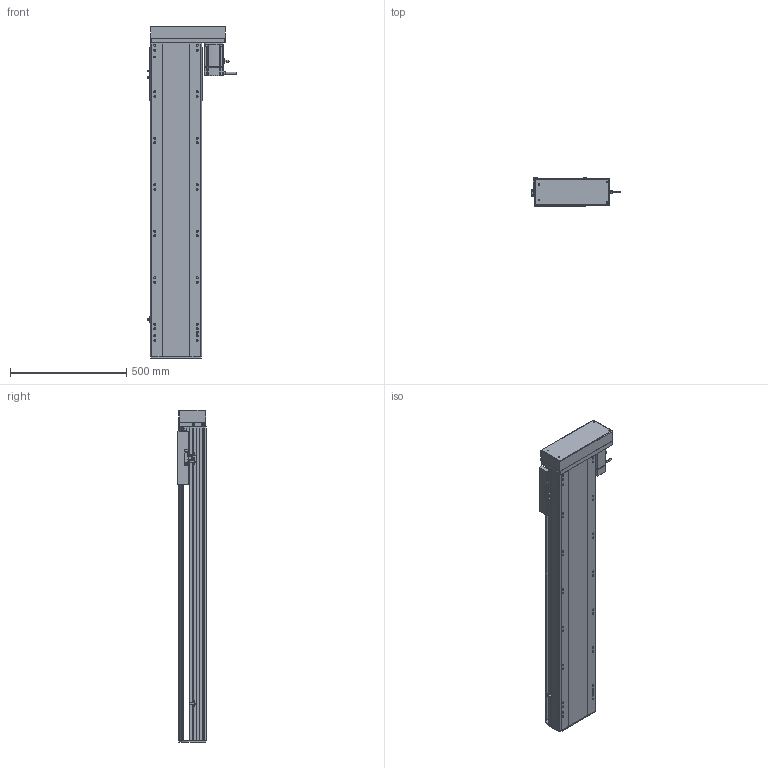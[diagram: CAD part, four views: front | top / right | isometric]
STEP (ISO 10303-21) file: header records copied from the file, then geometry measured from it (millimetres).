
FILE_DESCRIPTION (( 'STEP AP214' ), '1' );
FILE_NAME ('RTH22-XX-1050-L-M75-C4.STEP', '2025-10-24T11:00:41', ( 'Microsoft' ), ( 'Microsoft' ), 'SwSTEP 2.0', 'SolidWorks 2018', '' );
FILE_SCHEMA (( 'AUTOMOTIVE_DESIGN' ));
Length unit declared in the file: millimetre
Products named in the file (10): N_750W萇儂^RTH22-XX-XX-L-M75-C4; N_RTH22-L-007奻裔^RTH22-XX-XX-L-M75-C4; N_RTH22-L-018裔赽^RTH22-XX-XX-L-M75-C4; N_RTH22-GY-001耜裔^RTH22-XX-XX-L-M75-C4; N_RTH22-L-008-P75萇儂啣^RTH22-XX-XX-L-M75-C4; N_RTH22-GY-013外置感应片^RTH22-XX-XX-L-M75-C4; N_OMRON EE-SX672 传感器^RTH22-XX-XX-L-M75-C4; RTH22-XX-1050-L-M75-C4; N_RTH22-L-011菁釱^RTH22-XX-XX-L-M75-C4; N_RTH22-L-004-SFS25賑釱^RTH22-XX-XX-L-M75-C4
Assembly tree (11 placements, depth 2):
  RTH22-XX-1050-L-M75-C4
    N_RTH22-L-011菁釱^RTH22-XX-XX-L-M75-C4
    N_RTH22-GY-001耜裔^RTH22-XX-XX-L-M75-C4
    N_750W萇儂^RTH22-XX-XX-L-M75-C4
    N_RTH22-L-008-P75萇儂啣^RTH22-XX-XX-L-M75-C4
    N_RTH22-L-007奻裔^RTH22-XX-XX-L-M75-C4
    N_RTH22-L-018裔赽^RTH22-XX-XX-L-M75-C4
    N_OMRON EE-SX672 传感器^RTH22-XX-XX-L-M75-C4  x3
    N_RTH22-GY-013外置感应片^RTH22-XX-XX-L-M75-C4
    N_RTH22-L-004-SFS25賑釱^RTH22-XX-XX-L-M75-C4
Bounding box: 384.7 x 122 x 1429.7 mm (x, y, z)
Volume: 19478889.2 mm3; surface area: 2173637.6 mm2
Topology: 11 solids, 11 shells, 1624 faces, 4429 edges, 2851 vertices
Faces by surface type: plane 797, cylinder 482, bspline 279, cone 66
Entity records: 40993 total; most frequent: CARTESIAN_POINT 12410, ORIENTED_EDGE 5818, DIRECTION 5519, EDGE_CURVE 2909, VERTEX_POINT 1887, AXIS2_PLACEMENT_3D 1868, VECTOR 1783, LINE 1783
